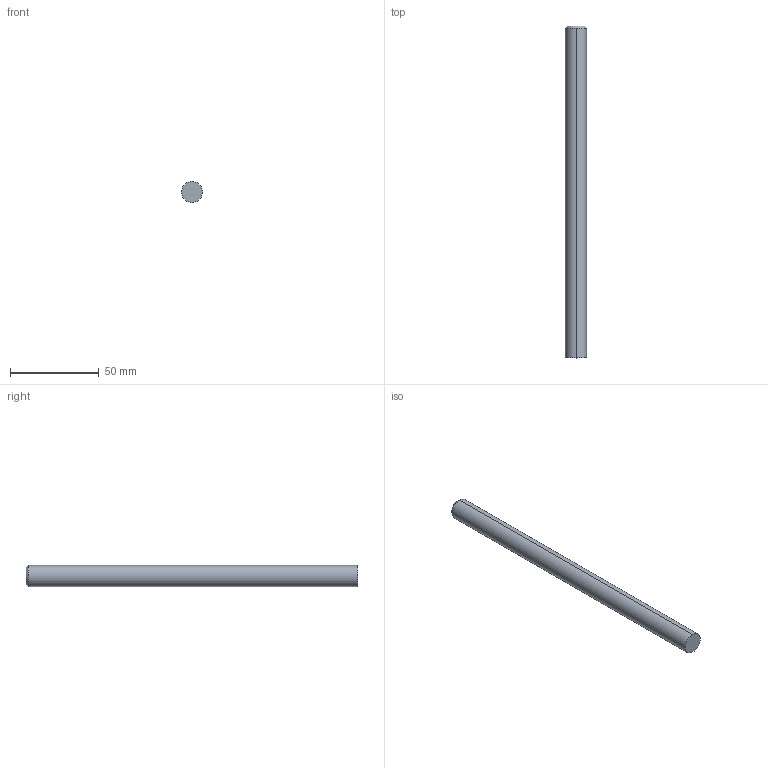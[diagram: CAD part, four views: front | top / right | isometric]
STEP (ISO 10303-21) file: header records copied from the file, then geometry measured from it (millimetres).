
FILE_DESCRIPTION(/* description */ ('STEP AP242 Edition 2','CAx-IF Rec.Pracs.---Representation and Presentation of Product Manufacturing Information (PMI)---4.0---2014-10-13','CAx-IF Rec.Pracs.---3D Tessellated Geometry---0.4---2014-09-14','2;1','CAx-IF Rec.Pracs.---User Defined Attributes---1.5---2016-08-15'),/* implementation_level */ '2;1');
FILE_NAME(/* name */ 'Assembly 1 - Part 2 (9)',/* time_stamp */ '2026-10-08T06:00:15Z',/* author */ (''),/* organization */ (''),/* preprocessor_version */ 'ST-DEVELOPER v20',/* originating_system */ 'ONSHAPE BY PTC INC, 1.221',/* authorisation */ ' ');
FILE_SCHEMA (('AP242_MANAGED_MODEL_BASED_3D_ENGINEERING_MIM_LF { 1 0 10303 442 3 1 4 }'));
Length unit declared in the file: metre
Products named in the file (1): Part 2
Bounding box: 12 x 187.5 x 12 mm (x, y, z)
Volume: 21182.5 mm3; surface area: 7267.8 mm2
Topology: 1 solids, 1 shells, 6 faces, 10 edges, 6 vertices
Faces by surface type: bspline 6
Entity records: 170 total; most frequent: CARTESIAN_POINT 61, ORIENTED_EDGE 20, DIRECTION 14, EDGE_CURVE 10, AXIS2_PLACEMENT_3D 7, VERTEX_POINT 6, CIRCLE 6, EDGE_LOOP 6
